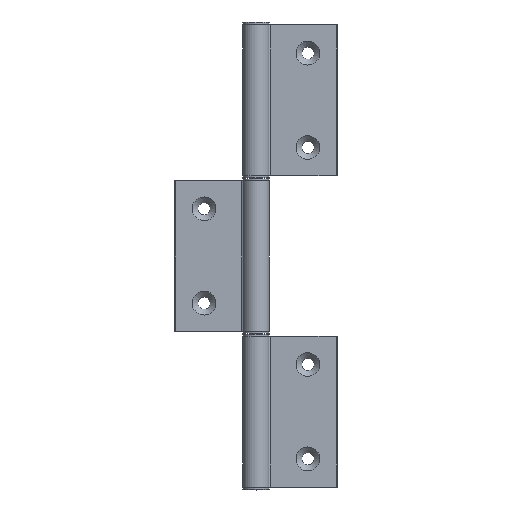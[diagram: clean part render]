
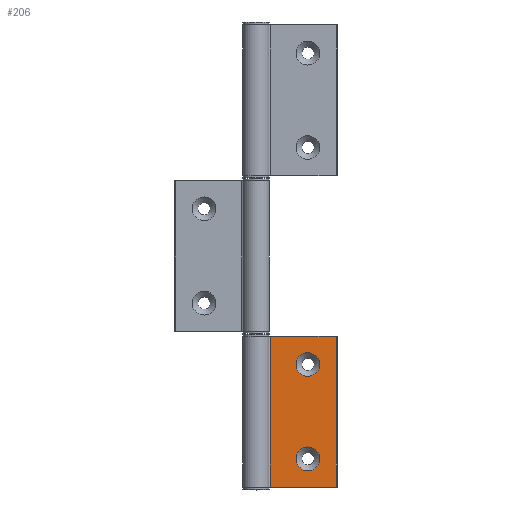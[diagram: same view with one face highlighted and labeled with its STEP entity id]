
A CAD part, top view. The second image highlights one B-rep face of the part: STEP entity #206.
In plain terms, the highlighted planar face has unit normal (0, 0, 1).
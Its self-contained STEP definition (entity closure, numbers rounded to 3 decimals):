
#206 = ADVANCED_FACE( '', ( #295, #296, #297 ), #298, .F. );
#295 = FACE_BOUND( '', #516, .T. );
#296 = FACE_BOUND( '', #517, .T. );
#297 = FACE_OUTER_BOUND( '', #518, .T. );
#298 = PLANE( '', #519 );
#516 = EDGE_LOOP( '', ( #736 ) );
#517 = EDGE_LOOP( '', ( #737 ) );
#518 = EDGE_LOOP( '', ( #738, #739, #740, #741 ) );
#519 = AXIS2_PLACEMENT_3D( '', #742, #743, #744 );
#736 = ORIENTED_EDGE( '', *, *, #1379, .F. );
#737 = ORIENTED_EDGE( '', *, *, #1380, .F. );
#738 = ORIENTED_EDGE( '', *, *, #1381, .T. );
#739 = ORIENTED_EDGE( '', *, *, #1382, .F. );
#740 = ORIENTED_EDGE( '', *, *, #1383, .F. );
#741 = ORIENTED_EDGE( '', *, *, #1384, .T. );
#742 = CARTESIAN_POINT( '', ( 7.677, 80., 1.25 ) );
#743 = DIRECTION( '', ( 0., 0., -1. ) );
#744 = DIRECTION( '', ( -1., 0., 0. ) );
#1379 = EDGE_CURVE( '', #1570, #1570, #1571, .T. );
#1380 = EDGE_CURVE( '', #1572, #1572, #1573, .T. );
#1381 = EDGE_CURVE( '', #1574, #1575, #1576, .T. );
#1382 = EDGE_CURVE( '', #1577, #1575, #1578, .T. );
#1383 = EDGE_CURVE( '', #1579, #1577, #1580, .T. );
#1384 = EDGE_CURVE( '', #1579, #1574, #1581, .T. );
#1570 = VERTEX_POINT( '', #1901 );
#1571 = CIRCLE( '', #1902, 6.3 );
#1572 = VERTEX_POINT( '', #1903 );
#1573 = CIRCLE( '', #1904, 6.3 );
#1574 = VERTEX_POINT( '', #1905 );
#1575 = VERTEX_POINT( '', #1906 );
#1576 = LINE( '', #1907, #1908 );
#1577 = VERTEX_POINT( '', #1909 );
#1578 = LINE( '', #1910, #1911 );
#1579 = VERTEX_POINT( '', #1912 );
#1580 = LINE( '', #1913, #1914 );
#1581 = LINE( '', #1915, #1916 );
#1901 = CARTESIAN_POINT( '', ( 33.8, 15., 1.25 ) );
#1902 = AXIS2_PLACEMENT_3D( '', #2319, #2320, #2321 );
#1903 = CARTESIAN_POINT( '', ( 33.8, 65., 1.25 ) );
#1904 = AXIS2_PLACEMENT_3D( '', #2322, #2323, #2324 );
#1905 = CARTESIAN_POINT( '', ( 7.677, 0., 1.25 ) );
#1906 = CARTESIAN_POINT( '', ( 42.5, 0., 1.25 ) );
#1907 = CARTESIAN_POINT( '', ( 7.677, 0., 1.25 ) );
#1908 = VECTOR( '', #2325, 1000. );
#1909 = CARTESIAN_POINT( '', ( 42.5, 80., 1.25 ) );
#1910 = CARTESIAN_POINT( '', ( 42.5, 80., 1.25 ) );
#1911 = VECTOR( '', #2326, 1000. );
#1912 = CARTESIAN_POINT( '', ( 7.677, 80., 1.25 ) );
#1913 = CARTESIAN_POINT( '', ( 7.677, 80., 1.25 ) );
#1914 = VECTOR( '', #2327, 1000. );
#1915 = CARTESIAN_POINT( '', ( 7.677, 80., 1.25 ) );
#1916 = VECTOR( '', #2328, 1000. );
#2319 = CARTESIAN_POINT( '', ( 27.5, 15., 1.25 ) );
#2320 = DIRECTION( '', ( 0., 0., 1. ) );
#2321 = DIRECTION( '', ( 1., 0., 0. ) );
#2322 = CARTESIAN_POINT( '', ( 27.5, 65., 1.25 ) );
#2323 = DIRECTION( '', ( 0., 0., 1. ) );
#2324 = DIRECTION( '', ( 1., 0., 0. ) );
#2325 = DIRECTION( '', ( 1., 0., 0. ) );
#2326 = DIRECTION( '', ( 0., -1., 0. ) );
#2327 = DIRECTION( '', ( 1., 0., 0. ) );
#2328 = DIRECTION( '', ( 0., -1., 0. ) );
